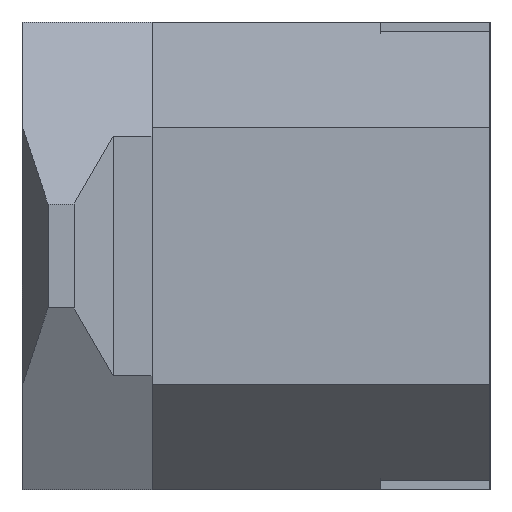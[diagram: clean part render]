
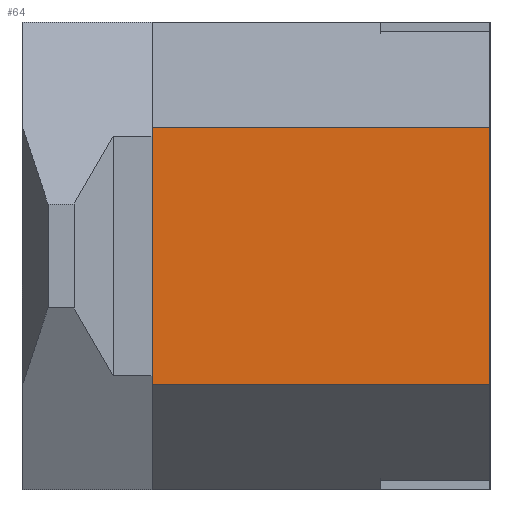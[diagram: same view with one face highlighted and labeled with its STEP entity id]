
A CAD part, left-side view. The second image highlights one B-rep face of the part: STEP entity #64.
In plain terms, the highlighted planar face has unit normal (-1, 0, 0).
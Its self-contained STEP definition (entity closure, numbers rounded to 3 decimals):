
#3 = VECTOR ( 'NONE', #658, 1000. ) ;
#6 = AXIS2_PLACEMENT_3D ( 'NONE', #876, #259, #539 ) ;
#13 = EDGE_CURVE ( 'NONE', #806, #661, #166, .T. ) ;
#48 = FACE_OUTER_BOUND ( 'NONE', #503, .T. ) ;
#64 = ADVANCED_FACE ( 'NONE', ( #48 ), #328, .F. ) ;
#69 = DIRECTION ( 'NONE',  ( 0., 1., 0. ) ) ;
#104 = LINE ( 'NONE', #398, #3 ) ;
#148 = EDGE_CURVE ( 'NONE', #661, #769, #557, .T. ) ;
#166 = LINE ( 'NONE', #528, #549 ) ;
#209 = ORIENTED_EDGE ( 'NONE', *, *, #385, .F. ) ;
#259 = DIRECTION ( 'NONE',  ( 1., 0., 0. ) ) ;
#318 = CARTESIAN_POINT ( 'NONE',  ( -2., 0., -4.959 ) ) ;
#328 = PLANE ( 'NONE',  #6 ) ;
#385 = EDGE_CURVE ( 'NONE', #514, #769, #104, .T. ) ;
#398 = CARTESIAN_POINT ( 'NONE',  ( -2., 13., -9. ) ) ;
#438 = CARTESIAN_POINT ( 'NONE',  ( -2., 0., 4.959 ) ) ;
#452 = VECTOR ( 'NONE', #69, 1000. ) ;
#486 = ORIENTED_EDGE ( 'NONE', *, *, #13, .T. ) ;
#503 = EDGE_LOOP ( 'NONE', ( #542, #209, #565, #486 ) ) ;
#514 = VERTEX_POINT ( 'NONE', #887 ) ;
#518 = CARTESIAN_POINT ( 'NONE',  ( -2., 13., 4.959 ) ) ;
#528 = CARTESIAN_POINT ( 'NONE',  ( -2., 0., -9. ) ) ;
#535 = VECTOR ( 'NONE', #567, 1000. ) ;
#539 = DIRECTION ( 'NONE',  ( 0., 1., 0. ) ) ;
#542 = ORIENTED_EDGE ( 'NONE', *, *, #148, .T. ) ;
#549 = VECTOR ( 'NONE', #795, 1000. ) ;
#557 = LINE ( 'NONE', #888, #452 ) ;
#565 = ORIENTED_EDGE ( 'NONE', *, *, #722, .T. ) ;
#567 = DIRECTION ( 'NONE',  ( 0., -1., 0. ) ) ;
#637 = LINE ( 'NONE', #832, #535 ) ;
#658 = DIRECTION ( 'NONE',  ( 0., 0., 1. ) ) ;
#661 = VERTEX_POINT ( 'NONE', #438 ) ;
#722 = EDGE_CURVE ( 'NONE', #514, #806, #637, .T. ) ;
#769 = VERTEX_POINT ( 'NONE', #518 ) ;
#795 = DIRECTION ( 'NONE',  ( 0., 0., 1. ) ) ;
#806 = VERTEX_POINT ( 'NONE', #318 ) ;
#832 = CARTESIAN_POINT ( 'NONE',  ( -2., 18., -4.959 ) ) ;
#876 = CARTESIAN_POINT ( 'NONE',  ( -2., 13., -9. ) ) ;
#887 = CARTESIAN_POINT ( 'NONE',  ( -2., 13., -4.959 ) ) ;
#888 = CARTESIAN_POINT ( 'NONE',  ( -2., 0., 4.959 ) ) ;
